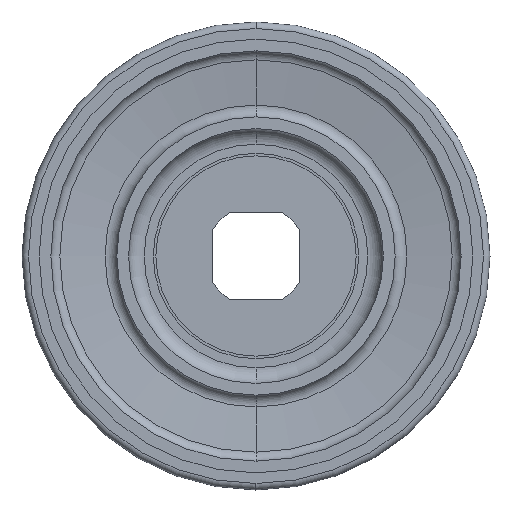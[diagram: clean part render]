
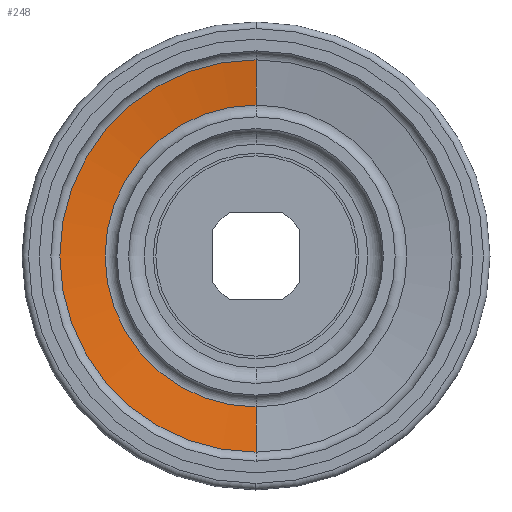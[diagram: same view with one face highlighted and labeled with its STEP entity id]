
A CAD part, front view. The second image highlights one B-rep face of the part: STEP entity #248.
In plain terms, the highlighted conical face has half-angle 82.222 degrees and reference radius 24.847 mm.
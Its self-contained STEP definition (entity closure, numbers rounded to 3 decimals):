
#6 = AXIS2_PLACEMENT_3D ( 'NONE', #787, #1293, #1289 ) ;
#84 = VERTEX_POINT ( 'NONE', #244 ) ;
#244 = CARTESIAN_POINT ( 'NONE',  ( 0., 67.562, -29.021 ) ) ;
#248 = ADVANCED_FACE ( 'NONE', ( #1327 ), #860, .F. ) ;
#298 = ORIENTED_EDGE ( 'NONE', *, *, #1469, .T. ) ;
#334 = CARTESIAN_POINT ( 'NONE',  ( 0., 67.562, 0. ) ) ;
#393 = VERTEX_POINT ( 'NONE', #1226 ) ;
#627 = AXIS2_PLACEMENT_3D ( 'NONE', #683, #1564, #1572 ) ;
#657 = EDGE_CURVE ( 'NONE', #393, #752, #1524, .T. ) ;
#683 = CARTESIAN_POINT ( 'NONE',  ( 0., 66.373, 0. ) ) ;
#693 = EDGE_CURVE ( 'NONE', #84, #1216, #1498, .T. ) ;
#752 = VERTEX_POINT ( 'NONE', #816 ) ;
#787 = CARTESIAN_POINT ( 'NONE',  ( 0., 68.132, 0. ) ) ;
#803 = CARTESIAN_POINT ( 'NONE',  ( 0., 67.562, 29.021 ) ) ;
#816 = CARTESIAN_POINT ( 'NONE',  ( 0., 66.373, -37.721 ) ) ;
#822 = DIRECTION ( 'NONE',  ( 0., 1., 0. ) ) ;
#829 = LINE ( 'NONE', #968, #1488 ) ;
#856 = DIRECTION ( 'NONE',  ( 0., -0.135, -0.991 ) ) ;
#860 = CONICAL_SURFACE ( 'NONE', #6, 24.847, 1.435 ) ;
#968 = CARTESIAN_POINT ( 'NONE',  ( 0., 68.132, -24.847 ) ) ;
#985 = LINE ( 'NONE', #1095, #1290 ) ;
#1091 = AXIS2_PLACEMENT_3D ( 'NONE', #334, #822, #1331 ) ;
#1095 = CARTESIAN_POINT ( 'NONE',  ( 0., 68.132, 24.847 ) ) ;
#1174 = ORIENTED_EDGE ( 'NONE', *, *, #693, .T. ) ;
#1216 = VERTEX_POINT ( 'NONE', #803 ) ;
#1226 = CARTESIAN_POINT ( 'NONE',  ( 0., 66.373, 37.721 ) ) ;
#1249 = ORIENTED_EDGE ( 'NONE', *, *, #1461, .F. ) ;
#1252 = EDGE_LOOP ( 'NONE', ( #1174, #298, #1532, #1249 ) ) ;
#1289 = DIRECTION ( 'NONE',  ( 0., 0., -1. ) ) ;
#1290 = VECTOR ( 'NONE', #1489, 1000. ) ;
#1293 = DIRECTION ( 'NONE',  ( 0., -1., 0. ) ) ;
#1327 = FACE_OUTER_BOUND ( 'NONE', #1252, .T. ) ;
#1331 = DIRECTION ( 'NONE',  ( 0., 0., 1. ) ) ;
#1461 = EDGE_CURVE ( 'NONE', #84, #752, #829, .T. ) ;
#1469 = EDGE_CURVE ( 'NONE', #1216, #393, #985, .T. ) ;
#1488 = VECTOR ( 'NONE', #856, 1000. ) ;
#1489 = DIRECTION ( 'NONE',  ( 0., -0.135, 0.991 ) ) ;
#1498 = CIRCLE ( 'NONE', #1091, 29.021 ) ;
#1524 = CIRCLE ( 'NONE', #627, 37.721 ) ;
#1532 = ORIENTED_EDGE ( 'NONE', *, *, #657, .T. ) ;
#1564 = DIRECTION ( 'NONE',  ( 0., -1., 0. ) ) ;
#1572 = DIRECTION ( 'NONE',  ( 0., 0., -1. ) ) ;
